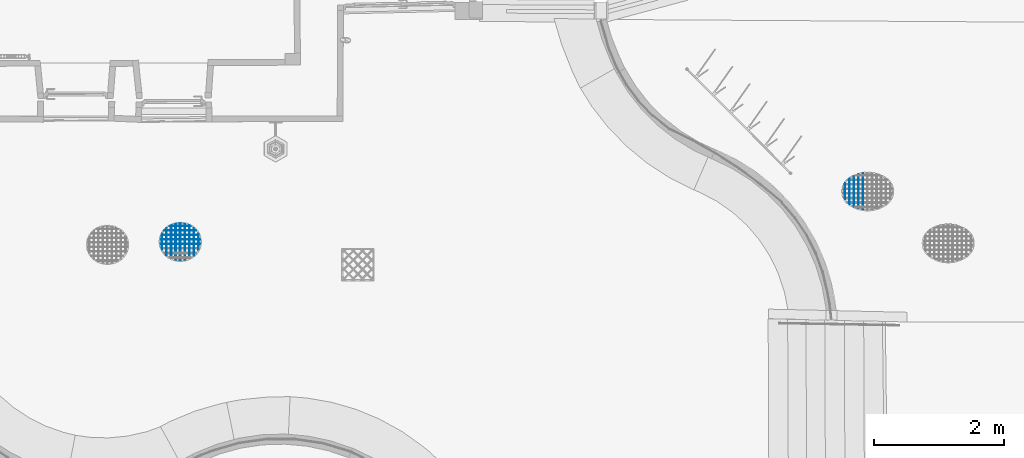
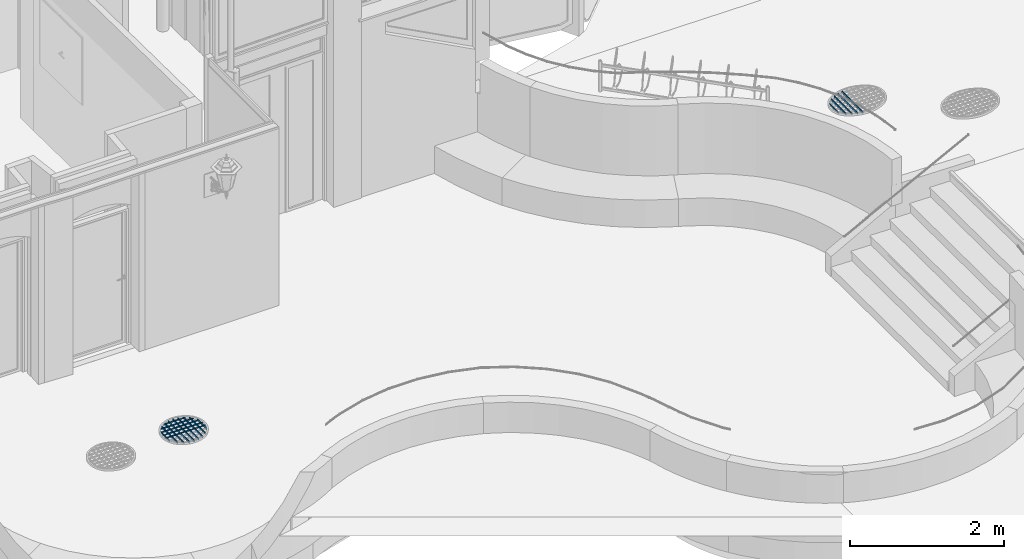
# One storey, part 42 of 133: 19 members, 2 elements without a shape of their own.
"""IFC2X3 building model written with IfcOpenShell, lengths in centimetres."""

import ifcopenshell
import ifcopenshell.guid

model = None  # the IFC model being written
_history = None  # IfcOwnerHistory: only IFC2X3 demands one
_inside = {}  # id of a spatial element -> (the spatial element, [elements in it])
_under = {}  # id of a project, library or spatial element -> (it, [spatial elements below it])
_declared = {}  # id of a project -> (the project, [libraries it declares])
_typed = {}  # id of a type object -> (the type object, [elements of that type])
_made_of = {}  # id of a material, layer set ... -> (it, [elements and type objects made of it])


def new_model(schema):
    """Start an empty IFC model of exactly this schema.

    Asked for "IFC4X3", IfcOpenShell would pick the latest addendum, in which some entities
    have other attributes; the version numbers below select the first issue.
    IFC2X3 requires an IfcOwnerHistory on every rooted entity: one is made here for all.
    """
    global model, _history
    if schema == "IFC4X3":
        model = ifcopenshell.file(schema_version=(4, 3, 0, 0))
    else:
        model = ifcopenshell.file(schema=schema)
    _inside.clear()
    _under.clear()
    _declared.clear()
    _typed.clear()
    _made_of.clear()
    _history = None
    if model.schema == "IFC2X3":
        org = make("IfcOrganization", Name="unknown")
        user = make(
            "IfcPersonAndOrganization",
            ThePerson=make("IfcPerson", FamilyName="unknown"),
            TheOrganization=org,
        )
        app = make(
            "IfcApplication",
            ApplicationDeveloper=org,
            Version="unknown",
            ApplicationFullName="unknown",
            ApplicationIdentifier="unknown",
        )
        _history = make(
            "IfcOwnerHistory",
            OwningUser=user,
            OwningApplication=app,
            ChangeAction="ADDED",
            CreationDate=0,
        )
    return model


def make(cls, **values):
    """One entity of the class cls with the attributes given. An attribute that is None is left unset."""
    return model.create_entity(
        cls, **{name: value for name, value in values.items() if value is not None}
    )


def entity(cls, *values):
    """Any entity or typed value of the class cls, its attributes in the order of the schema. None: left unset."""
    e = model.create_entity(cls)
    for i, value in enumerate(values):
        if value is not None:
            e[i] = value
    return e


def rooted(cls, **values):
    """An entity with a GlobalId (a new one), such as an element, a storey or a relation."""
    return make(cls, GlobalId=ifcopenshell.guid.new(), OwnerHistory=_history, **values)


def si_unit(unit_type, name, prefix=None):
    """IfcSIUnit, for example si_unit("LENGTHUNIT", "METRE", prefix="MILLI")."""
    return make("IfcSIUnit", UnitType=unit_type, Prefix=prefix, Name=name)


def converted_unit(unit_type, name, factor, base, dimensions=None, offset=None):
    """IfcConversionBasedUnit, such as the inch: factor (a typed value) times the base unit."""
    return make(
        "IfcConversionBasedUnit"
        if offset is None
        else "IfcConversionBasedUnitWithOffset",
        ConversionOffset=offset,
        Dimensions=None
        if dimensions is None
        else entity("IfcDimensionalExponents", *dimensions),
        UnitType=unit_type,
        Name=name,
        ConversionFactor=make(
            "IfcMeasureWithUnit", ValueComponent=factor, UnitComponent=base
        ),
    )


def assignment(units):
    """IfcUnitAssignment: the units of a project."""
    return None if units is None else make("IfcUnitAssignment", Units=units)


def point(xyz):
    """IfcCartesianPoint."""
    return None if xyz is None else make("IfcCartesianPoint", Coordinates=xyz)


def direction(xyz):
    """IfcDirection."""
    return None if xyz is None else make("IfcDirection", DirectionRatios=xyz)


def frame(location, z_axis=None, x_axis=None):
    """IfcAxis2Placement3D, a coordinate frame: its origin and axes. An axis left out is left unset."""
    return make(
        "IfcAxis2Placement3D",
        Location=point(location),
        Axis=direction(z_axis),
        RefDirection=direction(x_axis),
    )


def origin():
    """The frame at (0, 0, 0) with its axes left unset."""
    return frame((0.0, 0.0, 0.0))


def origin_with_axes():
    """The frame at (0, 0, 0) with the z axis (0, 0, 1) and the x axis (1, 0, 0) written out."""
    return frame((0.0, 0.0, 0.0), z_axis=(0.0, 0.0, 1.0), x_axis=(1.0, 0.0, 0.0))


def place(relative_to, where):
    """IfcLocalPlacement: puts the frame where relative to a parent placement (None: the world)."""
    return make(
        "IfcLocalPlacement", PlacementRelTo=relative_to, RelativePlacement=where
    )


def context(
    kind, dimensions, precision=None, world=None, true_north=None, identifier=None
):
    """IfcGeometricRepresentationContext, for example the 3D "Model" context."""
    return make(
        "IfcGeometricRepresentationContext",
        ContextIdentifier=identifier,
        ContextType=kind,
        CoordinateSpaceDimension=dimensions,
        Precision=precision,
        WorldCoordinateSystem=world,
        TrueNorth=true_north,
    )


def subcontext(parent, identifier, kind, view, scale=None):
    """IfcGeometricRepresentationSubContext, for example "Body" below "Model"."""
    return make(
        "IfcGeometricRepresentationSubContext",
        ContextIdentifier=identifier,
        ContextType=kind,
        ParentContext=parent,
        TargetScale=scale,
        TargetView=view,
    )


def project(units=None, contexts=None):
    """IfcProject with its units and contexts."""
    return rooted(
        "IfcProject",
        Name="project",
        RepresentationContexts=contexts,
        UnitsInContext=assignment(units),
    )


def spatial(cls, under=None, at=None, **own):
    """A site, building, storey or space (cls), placed at a placement, below another one or the project."""
    s = rooted(cls, ObjectPlacement=at, **own)
    if under is not None:
        _under.setdefault(under.id(), (under, []))[1].append(s)
    return s


def faces_of(points, faces, orient=None, outer=None):
    """IfcFace entities. A face is a list of loops; a loop is a list of indices into points, from 0.

    orient and outer hold one flag for each loop. By default every Orientation is true, the
    first loop of a face is its IfcFaceOuterBound and the others are IfcFaceBound.
    """
    made = []
    for i, loops in enumerate(faces):
        bounds = []
        for j, loop in enumerate(loops):
            is_outer = j == 0 if outer is None else outer[i][j]
            bounds.append(
                make(
                    "IfcFaceOuterBound" if is_outer else "IfcFaceBound",
                    Bound=make("IfcPolyLoop", Polygon=[points[k] for k in loop]),
                    Orientation=True if orient is None else orient[i][j],
                )
            )
        made.append(make("IfcFace", Bounds=bounds))
    return made


def faceted_brep(points, faces, orient=None, outer=None, voids=None):
    """IfcFacetedBrep: a solid bounded by flat faces; with voids (closed shells), ...WithVoids."""
    shared = [point(p) for p in points]
    hull = make("IfcClosedShell", CfsFaces=faces_of(shared, faces, orient, outer))
    if voids is None:
        return make("IfcFacetedBrep", Outer=hull)
    return make(
        "IfcFacetedBrepWithVoids",
        Outer=hull,
        Voids=[
            make(cls, CfsFaces=faces_of(shared, fs, o, b)) for cls, fs, o, b in voids
        ],
    )


def shape(context_of_items, identifier, shape_type, items):
    """IfcShapeRepresentation: the items that make up one representation, for example the "Body"."""
    return make(
        "IfcShapeRepresentation",
        ContextOfItems=context_of_items,
        RepresentationIdentifier=identifier,
        RepresentationType=shape_type,
        Items=items,
    )


def material(Name=None, Category=None):
    """IfcMaterial."""
    return make("IfcMaterial", Name=Name, Category=Category)


def made_of(thing, what):
    """Note that an element or type object is made of a material, layer set ...; save() writes the relation."""
    if what is not None:
        _made_of.setdefault(what.id(), (what, []))[1].append(thing)
    return thing


def type_object(cls, material=None, **own):
    """A type object (cls), such as IfcWallType, which elements share."""
    return made_of(rooted(cls, **own), material)


def element(
    cls,
    number,
    at=None,
    inside=None,
    cuts=None,
    type_object=None,
    material=None,
    context=None,
    identifier="Body",
    shape_type=None,
    held_by="IfcProductDefinitionShape",
    body=None,
    shapes=None,
    **own,
):
    """One element of the class cls, such as IfcWall. Its Tag is "e" and its number.

    at: its placement. inside: the storey or other place that contains it. cuts: it is an
    opening in that element (IfcRelVoidsElement). A single representation is given by context,
    identifier, shape_type and body (its items); several are given by shapes. held_by: the class
    of the entity that holds the representations. save() writes the other relations.
    """
    e = rooted(cls, Tag="e%d" % number, ObjectPlacement=at, **own)
    if body is not None:
        shapes = [shape(context, identifier, shape_type, body)]
    if shapes is not None:
        e.Representation = make(held_by, Representations=shapes)
    if inside is not None:
        _inside.setdefault(inside.id(), (inside, []))[1].append(e)
    if cuts is not None:
        rooted(
            "IfcRelVoidsElement", RelatingBuildingElement=cuts, RelatedOpeningElement=e
        )
    if type_object is not None:
        _typed.setdefault(type_object.id(), (type_object, []))[1].append(e)
    return made_of(e, material)


def aggregate(whole, parts):
    """IfcRelAggregates: a whole, such as a stair, and the parts it consists of."""
    return rooted("IfcRelAggregates", RelatingObject=whole, RelatedObjects=parts)


def save(model, path):
    """Write the relations noted so far, then the file.

    IfcRelAggregates (storeys below a building ...), IfcRelContainedInSpatialStructure (elements
    in a storey), IfcRelDefinesByType, IfcRelAssociatesMaterial and IfcRelDeclares: one each for
    every whole, place, type object, material and project.
    """
    for whole, parts in _under.values():
        aggregate(whole, parts)
    for where, things in _inside.values():
        rooted(
            "IfcRelContainedInSpatialStructure",
            RelatedElements=things,
            RelatingStructure=where,
        )
    for kind, things in _typed.values():
        rooted("IfcRelDefinesByType", RelatedObjects=things, RelatingType=kind)
    for what, things in _made_of.values():
        rooted("IfcRelAssociatesMaterial", RelatedObjects=things, RelatingMaterial=what)
    for by, libraries in _declared.values():
        rooted("IfcRelDeclares", RelatingContext=by, RelatedDefinitions=libraries)
    model.write(path)


model = new_model("IFC2X3")

# Units and contexts
model_context = context("Model", 3, precision=0.0001, world=origin(), true_north=direction((0.225632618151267, 0.974212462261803, 0.0)))
body_context = subcontext(model_context, "Body", "Model", "MODEL_VIEW")
ifc_project = project(units=[si_unit("LENGTHUNIT", "METRE", prefix="CENTI"), si_unit("AREAUNIT", "SQUARE_METRE", prefix="CENTI"), si_unit("VOLUMEUNIT", "CUBIC_METRE", prefix="CENTI"), converted_unit("PLANEANGLEUNIT", "DEGREE", entity("IfcRatioMeasure", 0.0174532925), si_unit("PLANEANGLEUNIT", "RADIAN"), dimensions=[0, 0, 0, 0, 0, 0, 0])], contexts=[model_context])

# Site, building, storey
site_placement = place(None, origin_with_axes())
site = spatial("IfcSite", under=ifc_project, at=site_placement, Name="Default Site", CompositionType="ELEMENT")
building_placement = place(site_placement, origin_with_axes())
building = spatial("IfcBuilding", under=site, at=building_placement, Name="Default Building", CompositionType="ELEMENT")
storey_placement = place(building_placement, frame((0.0, 0.0, -291.400371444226), z_axis=(0.0, 0.0, 1.0), x_axis=(1.0, 0.0, 0.0)))
storey = spatial("IfcBuildingStorey", under=building, at=storey_placement, Name="Rez-de-Jardin", CompositionType="ELEMENT", Elevation=-291.400371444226)

# Assembly, members
building_element_proxy_type = type_object("IfcBuildingElementProxyType", Name="Type Object", PredefinedType="NOTDEFINED")
assembly_1_placement = place(storey_placement, frame((1669.25525147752, -1133.36164127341, 107.795800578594), z_axis=(0.0, -1.0, -9.43689570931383e-16), x_axis=(1.0, 0.0, 0.0)))
assembly_1 = element("IfcElementAssembly", 1, at=assembly_1_placement, inside=storey, type_object=building_element_proxy_type, Name="Panneau 294969", ObjectType="Precast panel", PredefinedType="USERDEFINED")
ifc_material = material(Name="Acier")
member_1_placement = place(assembly_1_placement, frame((5.49999997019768, 1.49999996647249, 42.3705816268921), z_axis=(-0.872136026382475, -1.40243356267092e-22, 0.489263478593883), x_axis=(0.489263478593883, 8.23025672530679e-16, 0.872136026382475)))
member_1 = element("IfcMember", 2, at=member_1_placement, material=ifc_material, Name="4294966935", context=body_context, shape_type="Brep", body=[
    faceted_brep([(-3.77475828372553e-13, 3.40005801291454e-14, -3.88578058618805e-14), (-2.0438880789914, 3.57353036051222e-14, 3.48277947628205e-07), (-2.0438880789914, -2.99999993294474, 3.48277947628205e-07), (-3.77475828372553e-13, -2.99999993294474, -3.88578058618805e-14), (-21.5776603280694, -2.99999993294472, -12.1049478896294), (-20.5122992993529, -2.99999993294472, -10.3606760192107), (-20.5122992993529, 5.0827398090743e-14, -10.3606760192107), (-21.5776603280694, 5.16947595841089e-14, -12.1049478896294), (-2.04388807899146, -2.99999993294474, -3.88578058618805e-14), (-20.5122990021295, -2.99999993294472, -10.360676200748), (-2.04388807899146, 3.57353036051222e-14, -3.9916846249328e-14), (-20.5122990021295, 5.08273978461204e-14, -10.360676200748), (-2.04388807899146, 3.57353036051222e-14, -3.88578058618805e-14), (-3.77475828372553e-13, 3.40531312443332e-14, -3.88578058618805e-14), (-21.5776603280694, 5.18120979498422e-14, -12.1049478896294), (-20.5122990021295, 5.09352784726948e-14, -10.360676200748), (-3.78066873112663e-13, -2.99999993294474, -3.78042397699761e-14)], [[[0, 1, 2, 3]], [[4, 5, 6, 7]], [[3, 8, 9, 4]], [[8, 10, 11, 9]], [[12, 13, 14, 15]], [[0, 16, 4, 7]]]),
])
member_2_placement = place(assembly_1_placement, frame((12.5, 1.4999999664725, 49.5661318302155), z_axis=(-0.573786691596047, -1.39420277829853e-22, 0.819004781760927), x_axis=(0.819004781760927, 5.41476516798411e-16, 0.573786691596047)))
member_2 = element("IfcMember", 3, at=member_2_placement, material=ifc_material, Name="4294966934", context=body_context, shape_type="Brep", body=[
    faceted_brep([(-3.21964677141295e-13, 2.34187669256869e-14, -1.66533453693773e-13), (-1.22099383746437, 2.41126563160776e-14, 3.14383365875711e-07), (-1.22099383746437, -2.99999993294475, 3.14383365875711e-07), (-3.21964677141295e-13, -2.99999993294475, -1.66533453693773e-13), (-22.4535720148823, -2.99999993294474, -32.0495109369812), (-22.8705876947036, -2.99999993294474, -30.9019379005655), (-22.8705876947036, 3.59087761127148e-14, -30.9019379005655), (-22.4535720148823, 3.55618312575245e-14, -32.0495109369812), (-1.22099383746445, -2.99999993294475, -1.72084568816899e-13), (-22.8705873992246, -2.99999993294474, -30.9019377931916), (-1.22099383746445, 2.41126563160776e-14, -1.72880857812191e-13), (-22.8705873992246, 3.59087759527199e-14, -30.9019377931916), (-1.22099383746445, 2.41126563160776e-14, -1.72084568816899e-13), (-3.21964677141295e-13, 2.34515168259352e-14, -1.66533453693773e-13), (-22.4535720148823, 3.56095943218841e-14, -32.0495109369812), (-22.8705873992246, 3.58353985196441e-14, -30.9019377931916), (-3.23054294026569e-13, -2.99999993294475, -1.65770078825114e-13)], [[[0, 1, 2, 3]], [[4, 5, 6, 7]], [[3, 8, 9, 4]], [[8, 10, 11, 9]], [[12, 13, 14, 15]], [[0, 16, 4, 7]]]),
])
member_3_placement = place(assembly_1_placement, frame((19.4999992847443, 1.4999999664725, 53.4493982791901), z_axis=(-0.433736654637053, -7.7108313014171e-22, 0.901039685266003), x_axis=(0.901039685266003, 4.09312757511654e-16, 0.433736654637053)))
member_3 = element("IfcMember", 4, at=member_3_placement, material=ifc_material, Name="4294966933", context=body_context, shape_type="Brep", body=[
    faceted_brep([(-9.43689570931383e-14, 5.55111512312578e-15, -2.38697950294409e-13), (-1.10982797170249, 5.89805981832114e-15, 2.09074726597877e-06), (-1.10982797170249, -2.99999993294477, 2.09074726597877e-06), (-9.43689570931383e-14, -2.99999993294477, -2.38697950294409e-13), (-20.3417264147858, -2.99999993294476, -42.2576754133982), (-21.0339771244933, -2.99999993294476, -41.3902049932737), (-21.0339771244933, 1.40512601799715e-14, -41.3902049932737), (-20.3417264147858, 1.38777878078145e-14, -42.2576754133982), (-1.10982797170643, -2.99999993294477, -2.33146835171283e-13), (-21.0339770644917, -2.99999993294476, -41.3902049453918), (-1.10982797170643, 5.89805981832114e-15, -2.33598283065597e-13), (-21.0339770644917, 1.40512601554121e-14, -41.3902049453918), (-1.10982797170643, 5.89805981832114e-15, -2.33146835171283e-13), (-9.43689570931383e-14, 5.44379307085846e-15, -2.38697950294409e-13), (-20.3417264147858, 1.37698886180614e-14, -42.2576754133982), (-21.0339770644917, 1.40532363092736e-14, -41.3902049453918), (-9.5365887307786e-14, -2.99999993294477, -2.38218054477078e-13), (-20.3417264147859, -2.99999993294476, -42.2576754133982), (-20.3417264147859, 1.38777878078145e-14, -42.2576754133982)], [[[0, 1, 2, 3]], [[4, 5, 6, 7]], [[3, 8, 9, 4]], [[8, 10, 11, 9]], [[12, 13, 14, 15]], [[0, 16, 17, 18]]]),
])
member_4_placement = place(assembly_1_placement, frame((26.4999985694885, 1.4999999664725, 56.0827553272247), z_axis=(-0.289155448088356, 3.30920702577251e-22, 0.957282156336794), x_axis=(0.957282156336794, 2.72872980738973e-16, 0.289155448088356)))
member_4 = element("IfcMember", 5, at=member_4_placement, material=ifc_material, Name="4294966932", context=body_context, shape_type="Brep", body=[
    faceted_brep([(-1.11022302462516e-13, 3.3133218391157e-14, -1.55431223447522e-13), (-1.04462309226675, 3.33066907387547e-14, -1.2668438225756e-06), (-1.04462309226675, -2.99999993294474, -1.2668438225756e-06), (-1.11022302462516e-13, -2.99999993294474, -1.55431223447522e-13), (-15.0839421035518, -2.99999993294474, -49.9371141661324), (-15.9538811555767, -2.99999993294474, -49.3588025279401), (-15.9538811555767, 3.74700271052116e-14, -49.3588025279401), (-15.0839421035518, 3.71230823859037e-14, -49.9371141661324), (-1.04462309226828, -2.99999993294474, -1.66533453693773e-13), (-15.9538810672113, -2.99999993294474, -49.3588023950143), (-1.04462309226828, 3.33066907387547e-14, -1.66784256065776e-13), (-15.9538810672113, 3.7470027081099e-14, -49.3588023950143), (-1.04462309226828, 3.33066907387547e-14, -1.66533453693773e-13), (-1.11022302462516e-13, 3.30216413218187e-14, -1.55431223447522e-13), (-15.0839421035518, 3.71376580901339e-14, -49.9371141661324), (-15.9538810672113, 3.73750407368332e-14, -49.3588023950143), (-1.11772475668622e-13, -2.99999993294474, -1.55204627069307e-13)], [[[0, 1, 2, 3]], [[4, 5, 6, 7]], [[3, 8, 9, 4]], [[8, 10, 11, 9]], [[12, 13, 14, 15]], [[0, 16, 4, 7]]]),
])
member_5_placement = place(assembly_1_placement, frame((33.500000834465, 1.4999999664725, 57.5643599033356), z_axis=(-0.144579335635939, -1.41880085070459e-22, 0.989493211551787), x_axis=(0.989493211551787, 1.36438011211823e-16, 0.144579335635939)))
member_5 = element("IfcMember", 6, at=member_5_placement, material=ifc_material, Name="4294966931", context=body_context, shape_type="Brep", body=[
    faceted_brep([(8.88178419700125e-14, -6.24500451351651e-15, -3.77475828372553e-13), (-1.01062040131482, -6.07153216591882e-15, 1.05093042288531e-06), (-1.01062040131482, -2.99999993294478, 1.05093042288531e-06), (8.88178419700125e-14, -2.99999993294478, -3.77475828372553e-13), (-7.97047374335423, -2.99999993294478, -54.5494944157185), (-8.93884389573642, -2.99999993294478, -54.2603362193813), (-8.93884389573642, -5.03069808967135e-15, -54.2603362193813), (-7.97047374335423, -5.03069808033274e-15, -54.5494944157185), (-1.01062040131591, -2.99999993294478, -3.77475828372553e-13), (-8.93884396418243, -2.99999993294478, -54.2603364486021), (-1.01062040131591, -6.07153216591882e-15, -3.77525989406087e-13), (-8.93884396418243, -5.03069808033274e-15, -54.2603364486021), (-1.01062040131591, -6.07153216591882e-15, -3.77475828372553e-13), (8.88178419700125e-14, -6.20941920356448e-15, -3.77475828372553e-13), (-7.97047374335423, -5.12195135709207e-15, -54.5494944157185), (-8.93884396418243, -4.98982880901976e-15, -54.2603364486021), (8.84170838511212e-14, -2.99999993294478, -3.77417271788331e-13), (-7.97047374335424, -2.99999993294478, -54.5494944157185), (-7.97047374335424, -5.03069808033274e-15, -54.5494944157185)], [[[0, 1, 2, 3]], [[4, 5, 6, 7]], [[3, 8, 9, 4]], [[8, 10, 11, 9]], [[12, 13, 14, 15]], [[0, 16, 17, 18]]]),
])
aggregate(assembly_1, [member_1, member_2, member_3, member_4, member_5])

assembly_2_placement = place(storey_placement, frame((619.588486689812, -1210.73629178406, 0.999999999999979), z_axis=(0.0, -1.0, -9.43689570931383e-16), x_axis=(1.0, 0.0, 0.0)))
assembly_2 = element("IfcElementAssembly", 7, at=assembly_2_placement, inside=storey, type_object=building_element_proxy_type, Name="Panneau 294721", ObjectType="Precast panel", PredefinedType="USERDEFINED")
member_6_placement = place(assembly_2_placement, frame((62.8172218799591, 0.499999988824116, 33.1905782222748), z_axis=(0.9918400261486, -1.77089569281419e-21, 0.127488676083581), x_axis=(0.127488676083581, -9.35989088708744e-16, -0.9918400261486)))
member_6 = element("IfcMember", 8, at=member_6_placement, material=ifc_material, Name="4294966734", context=body_context, shape_type="Brep", body=[
    faceted_brep([(1.38777878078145e-13, 2.10768902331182e-14, -1.11022302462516e-13), (-1.00822614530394, 2.0122792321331e-14, -1.90756864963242e-06), (-1.00822614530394, -0.999999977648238, -1.90756864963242e-06), (1.38777878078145e-13, -0.999999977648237, -1.11022302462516e-13), (-7.73314044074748, -0.999999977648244, -60.1625058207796), (-8.70859222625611, -0.999999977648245, -59.9075268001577), (-8.70859222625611, 1.29236898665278e-14, -59.9075268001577), (-7.73314044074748, 1.38777878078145e-14, -60.1625058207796), (-1.00822614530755, -0.999999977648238, -1.11022302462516e-13), (-8.70859219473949, -0.999999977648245, -59.9075266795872), (-1.00822614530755, 2.0122792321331e-14, -1.10911723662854e-13), (-8.70859219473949, 1.29236898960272e-14, -59.9075266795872), (-1.00822614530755, 2.0122792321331e-14, -1.11022302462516e-13), (1.38777878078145e-13, 2.10664809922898e-14, -1.11022302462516e-13), (-7.73314044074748, 1.38282393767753e-14, -60.1625058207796), (-8.70859219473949, 1.29152276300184e-14, -59.9075266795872), (1.39698653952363e-13, -0.999999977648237, -1.11140656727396e-13)], [[[0, 1, 2, 3]], [[4, 5, 6, 7]], [[3, 8, 9, 4]], [[8, 10, 11, 9]], [[12, 13, 14, 15]], [[0, 16, 4, 7]]]),
])
member_7_placement = place(assembly_2_placement, frame((62.688684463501, 0.499999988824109, 26.1905789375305), z_axis=(0.9918400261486, 1.77089569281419e-21, -0.127488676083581), x_axis=(-0.127488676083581, -9.35989088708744e-16, -0.9918400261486)))
member_7 = element("IfcMember", 9, at=member_7_placement, material=ifc_material, Name="4294966733", context=body_context, shape_type="Brep", body=[
    faceted_brep([(2.16493489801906e-13, 1.25767452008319e-14, 1.11022302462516e-13), (-1.00822614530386, 1.17093834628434e-14, 1.90756864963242e-06), (-1.00822614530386, -0.999999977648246, 1.90756864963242e-06), (2.16493489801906e-13, -0.999999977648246, 1.11022302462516e-13), (7.70036604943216, -0.999999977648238, -59.907526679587), (6.72491426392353, -0.999999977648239, -60.1625057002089), (6.72491426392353, 1.89084858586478e-14, -60.1625057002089), (7.70036604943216, 1.98625837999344e-14, -59.907526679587), (-1.00822614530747, -0.999999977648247, 1.11022302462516e-13), (6.72491429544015, -0.999999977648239, -60.1625058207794), (-1.00822614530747, -0.999999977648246, 1.11022302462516e-13), (-1.00822614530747, 1.17093834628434e-14, 1.10911723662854e-13), (6.72491429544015, 1.89084858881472e-14, -60.1625058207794), (-1.00822614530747, 1.17093834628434e-14, 1.11022302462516e-13), (2.16493489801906e-13, 1.26530721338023e-14, 1.11022302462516e-13), (7.70036604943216, 1.98606368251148e-14, -59.907526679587), (6.72491429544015, 1.8947625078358e-14, -60.1625058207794), (2.17414265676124e-13, -0.999999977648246, 1.11140656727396e-13)], [[[0, 1, 2, 3]], [[4, 5, 6, 7]], [[3, 8, 9, 4]], [[10, 11, 12, 9]], [[13, 14, 15, 16]], [[0, 17, 4, 7]]]),
])
member_8_placement = place(assembly_2_placement, frame((60.6826722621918, 0.499999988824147, 19.1905781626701), z_axis=(0.923966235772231, -2.24053122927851e-21, -0.382474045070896), x_axis=(-0.382474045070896, -8.71937300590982e-16, -0.923966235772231)))
member_8 = element("IfcMember", 10, at=member_8_placement, material=ifc_material, Name="4294966732", context=body_context, shape_type="Brep", body=[
    faceted_brep([(1.66533453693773e-13, -3.57353036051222e-14, 1.66533453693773e-14), (-1.0822912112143, -3.66026653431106e-14, -2.78105689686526e-06), (-1.0822912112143, -0.999999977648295, -2.78105689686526e-06), (1.66533453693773e-13, -0.999999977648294, 1.66533453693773e-14), (21.5670882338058, -0.999999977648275, -52.1009506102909), (20.8014449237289, -0.999999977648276, -52.8658962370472), (20.8014449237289, -1.75207069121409e-14, -52.8658962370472), (21.5670882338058, -1.69135538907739e-14, -52.1009506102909), (-1.08229121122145, -0.999999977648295, 2.22044604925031e-14), (20.8014446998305, -0.999999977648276, -52.8658960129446), (-1.08229121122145, -3.66026653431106e-14, 2.1872717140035e-14), (20.8014446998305, -1.75207071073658e-14, -52.8658960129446), (-1.08229121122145, -3.66026653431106e-14, 2.22044604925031e-14), (1.66533453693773e-13, -3.56589752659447e-14, 1.66533453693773e-14), (21.5670882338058, -1.68539433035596e-14, -52.1009506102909), (20.8014446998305, -1.7521538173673e-14, -52.8658960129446), (1.67277839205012e-13, -0.999999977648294, 1.6961482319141e-14)], [[[0, 1, 2, 3]], [[4, 5, 6, 7]], [[3, 8, 9, 4]], [[8, 10, 11, 9]], [[12, 13, 14, 15]], [[0, 16, 4, 7]]]),
])
member_9_placement = place(assembly_2_placement, frame((56.2625527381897, 0.49999998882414, 12.1905788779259), z_axis=(0.770489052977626, -4.09272957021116e-22, -0.637453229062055), x_axis=(-0.637453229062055, -7.27102483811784e-16, -0.770489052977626)))
member_9 = element("IfcMember", 11, at=member_9_placement, material=ifc_material, Name="4294966731", context=body_context, shape_type="Brep", body=[
    faceted_brep([(8.88178419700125e-14, -7.71951946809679e-14, 2.94209101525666e-13), (-1.29787766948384, -7.81492925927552e-14, -7.30551785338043e-07), (-1.29787766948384, -0.999999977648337, -7.30551785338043e-07), (8.88178419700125e-14, -0.999999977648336, 2.94209101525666e-13), (30.3097076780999, -0.999999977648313, -36.6353120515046), (30.0666058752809, -0.999999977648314, -37.910218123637), (30.0666058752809, -5.533767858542e-14, -37.910218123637), (30.3097076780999, -5.51642065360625e-14, -36.6353120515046), (-1.29787766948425, -0.999999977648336, 2.94209101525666e-13), (30.0666054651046, -0.999999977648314, -37.9102180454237), (-1.29787766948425, -7.81492925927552e-14, 2.93877360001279e-13), (30.0666054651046, -5.53376788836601e-14, -37.9102180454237), (-1.29787766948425, -7.81492925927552e-14, 2.94209101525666e-13), (8.88178419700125e-14, -7.72056025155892e-14, 2.94209101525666e-13), (30.3097076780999, -5.51673537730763e-14, -36.6353120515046), (30.0666054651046, -5.53441145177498e-14, -37.9102180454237), (8.92494890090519e-14, -0.999999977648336, 2.94566218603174e-13)], [[[0, 1, 2, 3]], [[4, 5, 6, 7]], [[3, 8, 9, 4]], [[8, 10, 11, 9]], [[12, 13, 14, 15]], [[0, 16, 4, 7]]]),
])
member_10_placement = place(assembly_2_placement, frame((46.9211578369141, 0.499999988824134, 5.19057884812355), z_axis=(0.451178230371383, 2.8596710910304e-23, -0.892433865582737), x_axis=(-0.892433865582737, -4.25772190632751e-16, -0.451178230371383)))
member_10 = element("IfcMember", 12, at=member_10_placement, material=ifc_material, Name="4294966730", context=body_context, shape_type="Brep", body=[
    faceted_brep([(-1.49880108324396e-13, -1.87350135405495e-14, 1.22124532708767e-13), (-2.21641853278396, -1.96891114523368e-14, 1.48864423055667e-07), (-2.21641853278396, -0.999999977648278, 1.48864423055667e-07), (-1.49880108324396e-13, -0.999999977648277, 1.22124532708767e-13), (25.7604072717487, -0.999999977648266, -13.0234131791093), (27.0744704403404, -0.999999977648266, -14.8082815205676), (27.0744704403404, -7.19910260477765e-15, -14.8082815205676), (25.7604072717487, -7.80625564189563e-15, -13.0234131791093), (-2.21641853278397, -0.999999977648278, 1.22124532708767e-13), (27.0744708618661, -0.999999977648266, -14.8082812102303), (-2.21641853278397, -1.96891114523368e-14, 1.21969720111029e-13), (27.0744708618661, -7.19910242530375e-15, -14.8082812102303), (-2.21641853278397, -1.96891114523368e-14, 1.22124532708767e-13), (-1.49880108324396e-13, -1.87454220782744e-14, 1.22124532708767e-13), (25.7604072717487, -7.77735667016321e-15, -13.0234131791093), (27.0744708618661, -7.21786488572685e-15, -14.8082812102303), (-1.49793437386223e-13, -0.999999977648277, 1.22295968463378e-13)], [[[0, 1, 2, 3]], [[4, 5, 6, 7]], [[3, 8, 9, 4]], [[8, 10, 11, 9]], [[12, 13, 14, 15]], [[0, 16, 4, 7]]]),
])
member_11_placement = place(assembly_2_placement, frame((4.98848780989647, 1.49999996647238, 42.7045464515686), z_axis=(-0.909354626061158, 5.26300108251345e-23, 0.416021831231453), x_axis=(0.416021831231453, 8.58148476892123e-16, 0.909354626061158)))
member_11 = element("IfcMember", 13, at=member_11_placement, material=ifc_material, Name="4294966729", context=body_context, shape_type="Brep", body=[
    faceted_brep([(-5.55111512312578e-14, -3.53883589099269e-14, 0.0), (-2.40371950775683, -3.33066907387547e-14, -1.47419458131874e-07), (-2.40371950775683, -2.99999993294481, -1.47419458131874e-07), (-5.55111512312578e-14, -2.99999993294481, -1.47911278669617e-31), (-22.7592700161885, -2.99999993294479, -10.4121680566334), (-21.187592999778, -2.99999993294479, -8.59345825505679), (-21.187592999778, -1.73472344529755e-14, -8.59345825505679), (-22.7592700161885, -1.59594559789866e-14, -10.4121680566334), (-5.55111512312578e-14, -2.99999993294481, 0.0), (-2.40371950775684, -2.99999993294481, 0.0), (-21.1875926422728, -2.99999993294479, -8.59345856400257), (-2.40371950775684, -3.33066907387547e-14, -9.46487290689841e-16), (-21.1875926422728, -1.73472347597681e-14, -8.59345856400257), (-2.40371950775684, -3.33066907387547e-14, 0.0), (-5.55111512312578e-14, -3.53694389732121e-14, 9.95756472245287e-40), (-22.7592700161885, -1.58386055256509e-14, -10.4121680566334), (-21.1875926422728, -1.71873381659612e-14, -8.59345856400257), (-5.59567211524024e-14, -2.99999993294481, 9.73941842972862e-16)], [[[0, 1, 2, 3]], [[4, 5, 6, 7]], [[8, 9, 10, 4]], [[9, 11, 12, 10]], [[13, 14, 15, 16]], [[0, 17, 4, 7]]]),
])
member_12_placement = place(assembly_2_placement, frame((11.9884878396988, 1.49999996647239, 51.382452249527), z_axis=(-0.654373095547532, 3.52893669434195e-22, 0.756171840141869), x_axis=(0.756171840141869, 6.17525065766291e-16, 0.654373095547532)))
member_12 = element("IfcMember", 14, at=member_12_placement, material=ifc_material, Name="4294966728", context=body_context, shape_type="Brep", body=[
    faceted_brep([(-1.77635683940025e-13, 1.83880688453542e-14, -2.88657986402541e-13), (-1.32245045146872, 1.92554305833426e-14, -7.5573381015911e-07), (-1.32245045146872, -2.99999993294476, -7.5573381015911e-07), (-1.77635683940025e-13, -2.99999993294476, -2.88657986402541e-13), (-27.7347840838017, -2.99999993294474, -32.0493963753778), (-27.9246763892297, -2.99999993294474, -30.740649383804), (-27.9246763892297, 3.55618314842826e-14, -30.740649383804), (-27.7347840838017, 3.55618312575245e-14, -32.0493963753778), (-1.32245045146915, -2.99999993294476, -2.88657986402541e-13), (-27.924676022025, -2.99999993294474, -30.7406493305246), (-1.32245045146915, 1.92554305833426e-14, -2.89566111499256e-13), (-27.924676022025, 3.55618312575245e-14, -30.7406493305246), (-1.32245045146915, 1.92554305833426e-14, -2.88657986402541e-13), (-1.77635683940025e-13, 1.84387842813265e-14, -2.88657986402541e-13), (-27.7347840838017, 3.5565719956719e-14, -32.0493963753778), (-27.924676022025, 3.56829825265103e-14, -30.7406493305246), (-1.786949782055e-13, -2.99999993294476, -2.87741298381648e-13), (-27.7347840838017, -2.99999993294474, -32.0493963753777)], [[[0, 1, 2, 3]], [[4, 5, 6, 7]], [[3, 8, 9, 4]], [[8, 10, 11, 9]], [[12, 13, 14, 15]], [[0, 16, 17, 7]]]),
])
member_13_placement = place(assembly_2_placement, frame((18.9884871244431, 1.4999999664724, 55.5767774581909), z_axis=(-0.399390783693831, 6.76952387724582e-22, 0.91678078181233), x_axis=(0.91678078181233, 3.7690091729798e-16, 0.399390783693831)))
member_13 = element("IfcMember", 15, at=member_13_placement, material=ifc_material, Name="4294966727", context=body_context, shape_type="Brep", body=[
    faceted_brep([(4.44089209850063e-14, -1.50920942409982e-14, -2.4980018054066e-13), (-1.09077226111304, -1.47451495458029e-14, -1.95913818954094e-06), (-1.09077226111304, -2.99999993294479, -1.95913818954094e-06), (4.44089209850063e-14, -2.99999993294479, -2.4980018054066e-13), (-20.2780278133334, -2.99999993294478, -46.5471587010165), (-21.0208146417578, -2.99999993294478, -45.7483757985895), (-21.0208146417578, -7.11236613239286e-15, -45.7483757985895), (-20.2780278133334, -7.45931094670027e-15, -46.5471587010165), (-1.09077226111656, -2.99999993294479, -2.38697950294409e-13), (-21.0208143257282, -2.99999993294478, -45.7483755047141), (-1.09077226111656, -1.47451495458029e-14, -2.39113649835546e-13), (-21.0208143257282, -7.11236625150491e-15, -45.7483755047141), (-1.09077226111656, -1.47451495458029e-14, -2.38697950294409e-13), (4.44089209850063e-14, -1.51562626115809e-14, -2.4980018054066e-13), (-20.2780278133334, -7.51342381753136e-15, -46.5471587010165), (-21.0208143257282, -7.23346744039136e-15, -45.7483755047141), (4.34585807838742e-14, -2.99999993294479, -2.49386169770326e-13)], [[[0, 1, 2, 3]], [[4, 5, 6, 7]], [[3, 8, 9, 4]], [[8, 10, 11, 9]], [[12, 13, 14, 15]], [[0, 16, 4, 7]]]),
])
member_14_placement = place(assembly_2_placement, frame((25.9884864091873, 1.4999999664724, 57.7345788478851), z_axis=(-0.213462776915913, 2.57128649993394e-23, 0.97695119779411), x_axis=(0.97695119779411, 2.01442596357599e-16, 0.213462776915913)))
member_14 = element("IfcMember", 16, at=member_14_placement, material=ifc_material, Name="4294966726", context=body_context, shape_type="Brep", body=[
    faceted_brep([(-3.33066907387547e-14, -7.97972798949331e-15, 3.10862446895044e-13), (-1.02359160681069, -7.80625564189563e-15, -1.30654641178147e-07), (-1.02359160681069, -2.99999993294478, -1.30654641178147e-07), (-3.33066907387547e-14, -2.99999993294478, 3.10862446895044e-13), (-11.7592369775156, -2.99999993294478, -53.8182853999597), (-12.6895459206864, -2.99999993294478, -53.3913601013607), (-12.6895459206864, -5.37764275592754e-15, -53.3913601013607), (-11.7592369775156, -5.55111512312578e-15, -53.8182853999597), (-1.0235916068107, -2.99999993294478, 2.99760216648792e-13), (-12.6895458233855, -2.99999993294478, -53.3913598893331), (-1.0235916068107, -7.80625564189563e-15, 2.99649126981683e-13), (-12.6895458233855, -5.3776427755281e-15, -53.3913598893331), (-1.0235916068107, -7.80625564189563e-15, 2.99760216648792e-13), (-3.33066907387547e-14, -8.01245059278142e-15, 3.10862446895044e-13), (-11.7592369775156, -5.6436379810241e-15, -53.8182853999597), (-12.6895458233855, -5.4562341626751e-15, -53.3913598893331), (-3.38834814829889e-14, -2.99999993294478, 3.10988475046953e-13)], [[[0, 1, 2, 3]], [[4, 5, 6, 7]], [[3, 8, 9, 4]], [[8, 10, 11, 9]], [[12, 13, 14, 15]], [[0, 16, 4, 7]]]),
])
member_15_placement = place(assembly_2_placement, frame((32.9884886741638, 1.4999999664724, 58.3811581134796), z_axis=(0.0, 0.0, 1.0), x_axis=(1.0, 0.0, 0.0)))
member_15 = element("IfcMember", 17, at=member_15_placement, material=ifc_material, Name="4294966725", context=body_context, shape_type="Brep", body=[
    faceted_brep([(0.0, 0.0, -1.77635683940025e-13), (-1.00000202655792, 0.0, -1.88737936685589e-13), (-1.00000202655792, -2.99999993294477, -1.88737936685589e-13), (0.0, -2.99999993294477, -1.77635683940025e-13), (0.0, -2.99999993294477, -56.3811581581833), (-1.00000202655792, -2.99999993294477, -56.3811581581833), (-1.00000202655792, 0.0, -56.3811581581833), (0.0, 0.0, -56.3811581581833), (-1.00000202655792, -2.99999993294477, -1.77635683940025e-13), (-1.00000202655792, 0.0, -1.77635683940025e-13), (-1.00000202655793, 0.0, -56.3811581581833), (-1.00000202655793, -2.99999993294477, -56.3811581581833), (-5.5511151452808e-15, -2.99999993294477, -56.3811581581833), (-5.5511151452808e-15, 0.0, -56.3811581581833)], [[[0, 1, 2, 3]], [[4, 5, 6, 7]], [[3, 8, 5, 4]], [[8, 9, 10, 11]], [[9, 0, 7, 6]], [[0, 3, 12, 13]]]),
])
member_16_placement = place(assembly_2_placement, frame((39.9884879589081, 1.4999999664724, 57.5160801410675), z_axis=(0.213462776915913, 2.57128649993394e-23, 0.97695119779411), x_axis=(0.97695119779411, -2.01442596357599e-16, -0.213462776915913)))
member_16 = element("IfcMember", 18, at=member_16_placement, material=ifc_material, Name="4294966724", context=body_context, shape_type="Brep", body=[
    faceted_brep([(1.16573417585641e-13, -3.93782229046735e-14, 9.99200722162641e-14), (-1.02359160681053, -3.95516952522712e-14, 1.30655051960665e-07), (-1.02359160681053, -2.99999993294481, 1.30655051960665e-07), (1.16573417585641e-13, -2.99999993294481, 9.99200722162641e-14), (11.6659542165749, -2.99999993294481, -53.3913598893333), (10.735645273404, -2.99999993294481, -53.8182851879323), (10.735645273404, -3.71230824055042e-14, -53.8182851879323), (11.6659542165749, -3.6949610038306e-14, -53.3913598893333), (-1.02359160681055, -2.99999993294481, 9.99200722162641e-14), (10.735645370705, -2.99999993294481, -53.8182853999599), (-1.02359160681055, -3.95516952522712e-14, 9.98089825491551e-14), (10.735645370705, -3.71230823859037e-14, -53.8182853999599), (-1.02359160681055, -3.95516952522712e-14, 9.99200722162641e-14), (1.16573417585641e-13, -3.93455003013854e-14, 9.99200722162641e-14), (11.6659542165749, -3.69954788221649e-14, -53.3913598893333), (10.735645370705, -3.71828826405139e-14, -53.8182853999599), (1.17150208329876e-13, -2.99999993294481, 1.00046100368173e-13)], [[[0, 1, 2, 3]], [[4, 5, 6, 7]], [[3, 8, 9, 4]], [[8, 10, 11, 9]], [[12, 13, 14, 15]], [[0, 16, 4, 7]]]),
])
member_17_placement = place(assembly_2_placement, frame((46.9884872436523, 1.49999996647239, 55.1411330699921), z_axis=(0.399390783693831, 6.76952387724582e-22, 0.91678078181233), x_axis=(0.91678078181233, -3.7690091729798e-16, -0.399390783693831)))
member_17 = element("IfcMember", 19, at=member_17_placement, material=ifc_material, Name="4294966723", context=body_context, shape_type="Brep", body=[
    faceted_brep([(1.52655665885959e-13, -3.66026653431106e-14, -4.44089209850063e-14), (-1.09077226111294, -3.71230823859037e-14, 1.95913789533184e-06), (-1.09077226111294, -2.99999993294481, 1.95913789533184e-06), (1.52655665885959e-13, -2.99999993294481, -4.44089209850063e-14), (19.9300420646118, -2.9999999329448, -45.7483755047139), (19.1872552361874, -2.9999999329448, -46.5471584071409), (19.1872552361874, -2.94902992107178e-14, -46.5471584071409), (19.9300420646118, -2.91433543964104e-14, -45.7483755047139), (-1.09077226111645, -2.99999993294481, -5.55111512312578e-14), (19.187255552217, -2.9999999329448, -46.5471587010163), (-1.09077226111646, -3.71230823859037e-14, -5.59268507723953e-14), (19.187255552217, -2.94902990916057e-14, -46.5471587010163), (-1.09077226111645, -3.71230823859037e-14, -5.55111512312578e-14), (1.52655665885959e-13, -3.67119693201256e-14, -4.44089209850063e-14), (19.9300420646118, -2.92002872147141e-14, -45.7483755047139), (19.187255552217, -2.94802435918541e-14, -46.5471587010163), (1.53606006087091e-13, -2.99999993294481, -4.39949102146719e-14)], [[[0, 1, 2, 3]], [[4, 5, 6, 7]], [[3, 8, 9, 4]], [[8, 10, 11, 9]], [[12, 13, 14, 15]], [[0, 16, 4, 7]]]),
])
member_18_placement = place(assembly_2_placement, frame((53.9884865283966, 1.49999996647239, 50.517076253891), z_axis=(0.654373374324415, 1.25231527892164e-22, 0.756171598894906), x_axis=(0.756171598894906, -6.17525328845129e-16, -0.654373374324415)))
member_18 = element("IfcMember", 20, at=member_18_placement, material=ifc_material, Name="4294966722", context=body_context, shape_type="Brep", body=[
    faceted_brep([(-6.93889390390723e-15, -3.98986399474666e-14, -6.66133814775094e-14), (-1.3224498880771, -4.0766001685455e-14, 2.6818718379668e-07), (-1.32244988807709, -2.99999993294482, 2.6818718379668e-07), (-4.16333634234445e-15, -2.99999993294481, -6.66133820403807e-14), (26.6022369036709, -2.9999999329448, -30.740639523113), (26.4123451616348, -2.9999999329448, -32.0493860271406), (26.4123451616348, -2.3592239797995e-14, -32.0493860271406), (26.6022369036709, -2.35922392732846e-14, -30.740639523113), (-4.16333634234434e-15, -2.99999993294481, -6.66133814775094e-14), (-1.32244988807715, -2.99999993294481, -6.66133814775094e-14), (26.4123460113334, -2.9999999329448, -32.0493861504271), (-1.32244988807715, -4.0766001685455e-14, -6.61593187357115e-14), (26.4123460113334, -2.35922392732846e-14, -32.0493861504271), (-1.32244988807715, -4.0766001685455e-14, -6.66133814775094e-14), (-6.93889390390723e-15, -3.99493553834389e-14, -6.66133814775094e-14), (26.6022369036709, -2.35217964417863e-14, -30.740639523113), (26.4123460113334, -2.36390587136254e-14, -32.0493861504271), (-4.69109325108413e-15, -2.99999993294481, -6.70700900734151e-14)], [[[0, 1, 2, 3]], [[4, 5, 6, 7]], [[8, 9, 10, 4]], [[9, 11, 12, 10]], [[13, 14, 15, 16]], [[0, 17, 4, 7]]]),
])
member_19_placement = place(assembly_2_placement, frame((60.9884858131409, 1.49999996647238, 40.5187129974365), z_axis=(0.909354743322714, -1.89251206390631e-22, 0.416021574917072), x_axis=(0.416021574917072, -8.5814858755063e-16, -0.909354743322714)))
member_19 = element("IfcMember", 21, at=member_19_placement, material=ifc_material, Name="4294966721", context=body_context, shape_type="Brep", body=[
    faceted_brep([(2.2065682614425e-13, -5.46437894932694e-14, -8.88178419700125e-14), (-2.40371919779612, -5.67254576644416e-14, -5.30102642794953e-07), (-2.40371919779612, -2.99999993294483, -5.30102642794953e-07), (2.23432383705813e-13, -2.99999993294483, -8.88178413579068e-14), (18.7838755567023, -2.99999993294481, -8.59345326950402), (20.3555528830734, -2.99999993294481, -10.4121623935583), (20.3555528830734, -3.71230831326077e-14, -10.4121623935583), (18.7838755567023, -3.85108611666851e-14, -8.59345326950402), (2.23432383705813e-13, -2.99999993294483, -8.88178419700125e-14), (-2.40371919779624, -2.99999993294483, -8.88178419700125e-14), (20.355553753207, -2.99999993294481, -10.4121616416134), (-2.40371919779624, -5.67254576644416e-14, -8.97643293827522e-14), (20.355553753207, -3.71230823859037e-14, -10.4121616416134), (-2.40371919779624, -5.67254576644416e-14, -8.88178419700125e-14), (2.2065682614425e-13, -5.46627094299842e-14, -8.88178419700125e-14), (18.7838755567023, -3.85433547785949e-14, -8.59345326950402), (20.355553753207, -3.71946216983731e-14, -10.4121616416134), (2.23397576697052e-13, -2.99999993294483, -8.88939243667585e-14), (18.7838755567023, -2.99999993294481, -8.59345326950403), (18.7838755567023, -3.85108611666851e-14, -8.59345326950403)], [[[0, 1, 2, 3]], [[4, 5, 6, 7]], [[8, 9, 10, 4]], [[9, 11, 12, 10]], [[13, 14, 15, 16]], [[0, 17, 18, 19]]]),
])
aggregate(assembly_2, [member_6, member_7, member_8, member_9, member_10, member_11, member_12, member_13, member_14, member_15, member_16, member_17, member_18, member_19])

save(model, "model.ifc")
